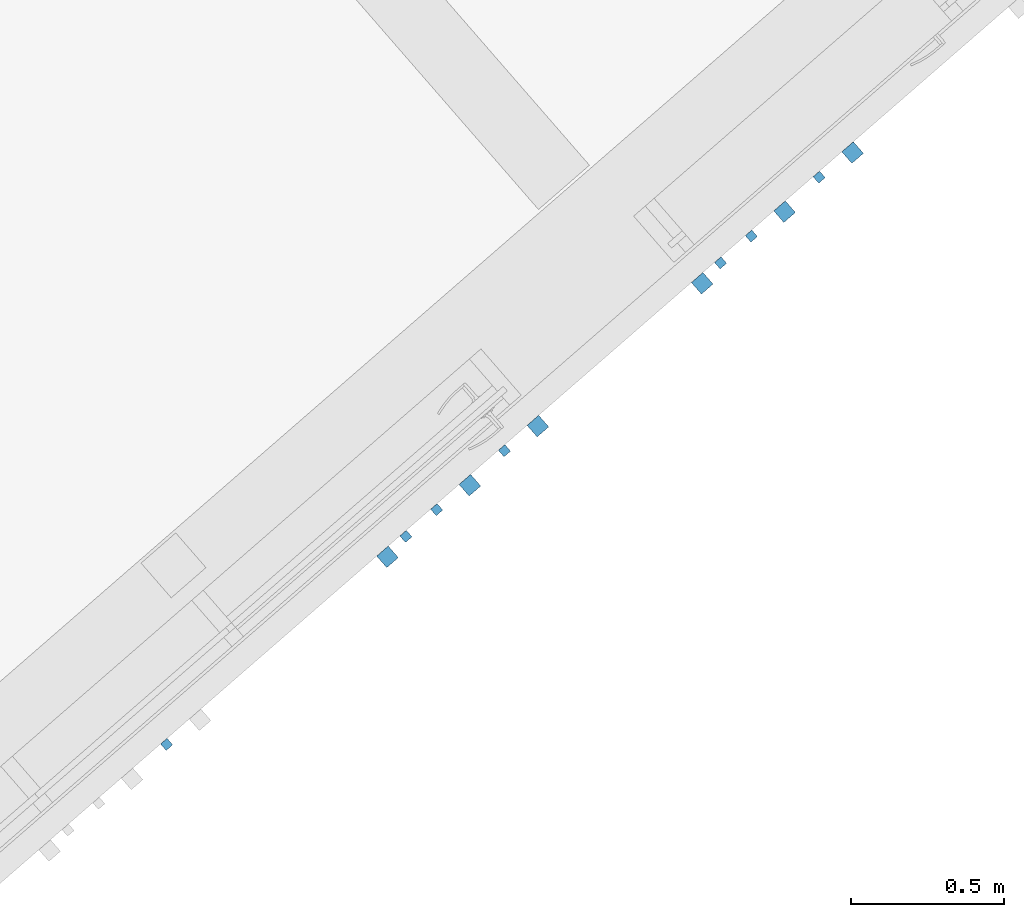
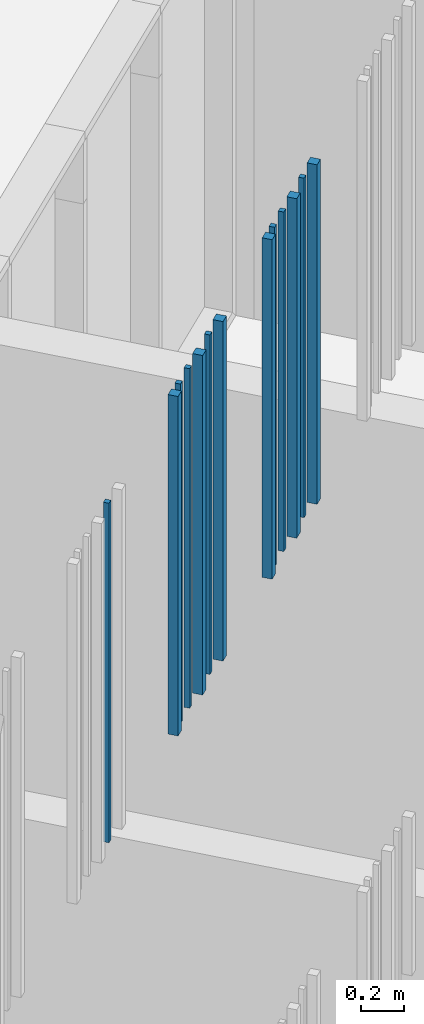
# One storey, part 64 of 124: 13 walls.
"""IFC2X3 building model written with IfcOpenShell, lengths in millimetres."""

import ifcopenshell
import ifcopenshell.guid

model = None  # the IFC model being written
_history = None  # IfcOwnerHistory: only IFC2X3 demands one
_inside = {}  # id of a spatial element -> (the spatial element, [elements in it])
_under = {}  # id of a project, library or spatial element -> (it, [spatial elements below it])
_declared = {}  # id of a project -> (the project, [libraries it declares])
_typed = {}  # id of a type object -> (the type object, [elements of that type])
_made_of = {}  # id of a material, layer set ... -> (it, [elements and type objects made of it])


def new_model(schema):
    """Start an empty IFC model of exactly this schema.

    Asked for "IFC4X3", IfcOpenShell would pick the latest addendum, in which some entities
    have other attributes; the version numbers below select the first issue.
    IFC2X3 requires an IfcOwnerHistory on every rooted entity: one is made here for all.
    """
    global model, _history
    if schema == "IFC4X3":
        model = ifcopenshell.file(schema_version=(4, 3, 0, 0))
    else:
        model = ifcopenshell.file(schema=schema)
    _inside.clear()
    _under.clear()
    _declared.clear()
    _typed.clear()
    _made_of.clear()
    _history = None
    if model.schema == "IFC2X3":
        org = make("IfcOrganization", Name="unknown")
        user = make(
            "IfcPersonAndOrganization",
            ThePerson=make("IfcPerson", FamilyName="unknown"),
            TheOrganization=org,
        )
        app = make(
            "IfcApplication",
            ApplicationDeveloper=org,
            Version="unknown",
            ApplicationFullName="unknown",
            ApplicationIdentifier="unknown",
        )
        _history = make(
            "IfcOwnerHistory",
            OwningUser=user,
            OwningApplication=app,
            ChangeAction="ADDED",
            CreationDate=0,
        )
    return model


def make(cls, **values):
    """One entity of the class cls with the attributes given. An attribute that is None is left unset."""
    return model.create_entity(
        cls, **{name: value for name, value in values.items() if value is not None}
    )


def entity(cls, *values):
    """Any entity or typed value of the class cls, its attributes in the order of the schema. None: left unset."""
    e = model.create_entity(cls)
    for i, value in enumerate(values):
        if value is not None:
            e[i] = value
    return e


def rooted(cls, **values):
    """An entity with a GlobalId (a new one), such as an element, a storey or a relation."""
    return make(cls, GlobalId=ifcopenshell.guid.new(), OwnerHistory=_history, **values)


def si_unit(unit_type, name, prefix=None):
    """IfcSIUnit, for example si_unit("LENGTHUNIT", "METRE", prefix="MILLI")."""
    return make("IfcSIUnit", UnitType=unit_type, Prefix=prefix, Name=name)


def converted_unit(unit_type, name, factor, base, dimensions=None, offset=None):
    """IfcConversionBasedUnit, such as the inch: factor (a typed value) times the base unit."""
    return make(
        "IfcConversionBasedUnit"
        if offset is None
        else "IfcConversionBasedUnitWithOffset",
        ConversionOffset=offset,
        Dimensions=None
        if dimensions is None
        else entity("IfcDimensionalExponents", *dimensions),
        UnitType=unit_type,
        Name=name,
        ConversionFactor=make(
            "IfcMeasureWithUnit", ValueComponent=factor, UnitComponent=base
        ),
    )


def derived_unit(unit_type, elements):
    """IfcDerivedUnit: a product of units, each with its exponent."""
    return make(
        "IfcDerivedUnit",
        Elements=[
            make("IfcDerivedUnitElement", Unit=unit, Exponent=power)
            for unit, power in elements
        ],
        UnitType=unit_type,
    )


def money_unit(currency):
    """IfcMonetaryUnit."""
    return make("IfcMonetaryUnit", Currency=currency)


def assignment(units):
    """IfcUnitAssignment: the units of a project."""
    return None if units is None else make("IfcUnitAssignment", Units=units)


def point(xyz):
    """IfcCartesianPoint."""
    return None if xyz is None else make("IfcCartesianPoint", Coordinates=xyz)


def direction(xyz):
    """IfcDirection."""
    return None if xyz is None else make("IfcDirection", DirectionRatios=xyz)


def frame(location, z_axis=None, x_axis=None):
    """IfcAxis2Placement3D, a coordinate frame: its origin and axes. An axis left out is left unset."""
    return make(
        "IfcAxis2Placement3D",
        Location=point(location),
        Axis=direction(z_axis),
        RefDirection=direction(x_axis),
    )


def origin_with_axes():
    """The frame at (0, 0, 0) with the z axis (0, 0, 1) and the x axis (1, 0, 0) written out."""
    return frame((0.0, 0.0, 0.0), z_axis=(0.0, 0.0, 1.0), x_axis=(1.0, 0.0, 0.0))


def place(relative_to, where):
    """IfcLocalPlacement: puts the frame where relative to a parent placement (None: the world)."""
    return make(
        "IfcLocalPlacement", PlacementRelTo=relative_to, RelativePlacement=where
    )


def context(
    kind, dimensions, precision=None, world=None, true_north=None, identifier=None
):
    """IfcGeometricRepresentationContext, for example the 3D "Model" context."""
    return make(
        "IfcGeometricRepresentationContext",
        ContextIdentifier=identifier,
        ContextType=kind,
        CoordinateSpaceDimension=dimensions,
        Precision=precision,
        WorldCoordinateSystem=world,
        TrueNorth=true_north,
    )


def subcontext(parent, identifier, kind, view, scale=None):
    """IfcGeometricRepresentationSubContext, for example "Body" below "Model"."""
    return make(
        "IfcGeometricRepresentationSubContext",
        ContextIdentifier=identifier,
        ContextType=kind,
        ParentContext=parent,
        TargetScale=scale,
        TargetView=view,
    )


def project(units=None, contexts=None):
    """IfcProject with its units and contexts."""
    return rooted(
        "IfcProject",
        Name="project",
        RepresentationContexts=contexts,
        UnitsInContext=assignment(units),
    )


def spatial(cls, under=None, at=None, **own):
    """A site, building, storey or space (cls), placed at a placement, below another one or the project."""
    s = rooted(cls, ObjectPlacement=at, **own)
    if under is not None:
        _under.setdefault(under.id(), (under, []))[1].append(s)
    return s


def faces_of(points, faces, orient=None, outer=None):
    """IfcFace entities. A face is a list of loops; a loop is a list of indices into points, from 0.

    orient and outer hold one flag for each loop. By default every Orientation is true, the
    first loop of a face is its IfcFaceOuterBound and the others are IfcFaceBound.
    """
    made = []
    for i, loops in enumerate(faces):
        bounds = []
        for j, loop in enumerate(loops):
            is_outer = j == 0 if outer is None else outer[i][j]
            bounds.append(
                make(
                    "IfcFaceOuterBound" if is_outer else "IfcFaceBound",
                    Bound=make("IfcPolyLoop", Polygon=[points[k] for k in loop]),
                    Orientation=True if orient is None else orient[i][j],
                )
            )
        made.append(make("IfcFace", Bounds=bounds))
    return made


def faceted_brep(points, faces, orient=None, outer=None, voids=None):
    """IfcFacetedBrep: a solid bounded by flat faces; with voids (closed shells), ...WithVoids."""
    shared = [point(p) for p in points]
    hull = make("IfcClosedShell", CfsFaces=faces_of(shared, faces, orient, outer))
    if voids is None:
        return make("IfcFacetedBrep", Outer=hull)
    return make(
        "IfcFacetedBrepWithVoids",
        Outer=hull,
        Voids=[
            make(cls, CfsFaces=faces_of(shared, fs, o, b)) for cls, fs, o, b in voids
        ],
    )


def shape(context_of_items, identifier, shape_type, items):
    """IfcShapeRepresentation: the items that make up one representation, for example the "Body"."""
    return make(
        "IfcShapeRepresentation",
        ContextOfItems=context_of_items,
        RepresentationIdentifier=identifier,
        RepresentationType=shape_type,
        Items=items,
    )


def material(Name=None, Category=None):
    """IfcMaterial."""
    return make("IfcMaterial", Name=Name, Category=Category)


def made_of(thing, what):
    """Note that an element or type object is made of a material, layer set ...; save() writes the relation."""
    if what is not None:
        _made_of.setdefault(what.id(), (what, []))[1].append(thing)
    return thing


def type_object(cls, material=None, **own):
    """A type object (cls), such as IfcWallType, which elements share."""
    return made_of(rooted(cls, **own), material)


def element(
    cls,
    number,
    at=None,
    inside=None,
    cuts=None,
    type_object=None,
    material=None,
    context=None,
    identifier="Body",
    shape_type=None,
    held_by="IfcProductDefinitionShape",
    body=None,
    shapes=None,
    **own,
):
    """One element of the class cls, such as IfcWall. Its Tag is "e" and its number.

    at: its placement. inside: the storey or other place that contains it. cuts: it is an
    opening in that element (IfcRelVoidsElement). A single representation is given by context,
    identifier, shape_type and body (its items); several are given by shapes. held_by: the class
    of the entity that holds the representations. save() writes the other relations.
    """
    e = rooted(cls, Tag="e%d" % number, ObjectPlacement=at, **own)
    if body is not None:
        shapes = [shape(context, identifier, shape_type, body)]
    if shapes is not None:
        e.Representation = make(held_by, Representations=shapes)
    if inside is not None:
        _inside.setdefault(inside.id(), (inside, []))[1].append(e)
    if cuts is not None:
        rooted(
            "IfcRelVoidsElement", RelatingBuildingElement=cuts, RelatedOpeningElement=e
        )
    if type_object is not None:
        _typed.setdefault(type_object.id(), (type_object, []))[1].append(e)
    return made_of(e, material)


def aggregate(whole, parts):
    """IfcRelAggregates: a whole, such as a stair, and the parts it consists of."""
    return rooted("IfcRelAggregates", RelatingObject=whole, RelatedObjects=parts)


def save(model, path):
    """Write the relations noted so far, then the file.

    IfcRelAggregates (storeys below a building ...), IfcRelContainedInSpatialStructure (elements
    in a storey), IfcRelDefinesByType, IfcRelAssociatesMaterial and IfcRelDeclares: one each for
    every whole, place, type object, material and project.
    """
    for whole, parts in _under.values():
        aggregate(whole, parts)
    for where, things in _inside.values():
        rooted(
            "IfcRelContainedInSpatialStructure",
            RelatedElements=things,
            RelatingStructure=where,
        )
    for kind, things in _typed.values():
        rooted("IfcRelDefinesByType", RelatedObjects=things, RelatingType=kind)
    for what, things in _made_of.values():
        rooted("IfcRelAssociatesMaterial", RelatedObjects=things, RelatingMaterial=what)
    for by, libraries in _declared.values():
        rooted("IfcRelDeclares", RelatingContext=by, RelatedDefinitions=libraries)
    model.write(path)


model = new_model("IFC2X3")

# Units and contexts
model_context = context("Model", 3, precision=1e-05, world=origin_with_axes(), true_north=direction((0.0, 1.0)))
body_context = subcontext(model_context, "Body", "Model", "MODEL_VIEW")
ifc_project = project(units=[si_unit("LENGTHUNIT", "METRE", prefix="MILLI"), si_unit("AREAUNIT", "SQUARE_METRE"), si_unit("VOLUMEUNIT", "CUBIC_METRE"), converted_unit("PLANEANGLEUNIT", "DEGREE", entity("IfcPlaneAngleMeasure", 0.0174532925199), si_unit("PLANEANGLEUNIT", "RADIAN"), dimensions=[0, 0, 0, 0, 0, 0, 0]), si_unit("SOLIDANGLEUNIT", "STERADIAN"), money_unit("EUR"), converted_unit("TIMEUNIT", "Year", entity("IfcTimeMeasure", 31556926.0), si_unit("TIMEUNIT", "SECOND"), dimensions=[0, 0, 1, 0, 0, 0, 0]), si_unit("MASSUNIT", "GRAM", prefix="KILO"), si_unit("THERMODYNAMICTEMPERATUREUNIT", "DEGREE_CELSIUS"), si_unit("LUMINOUSINTENSITYUNIT", "LUMEN"), si_unit("ENERGYUNIT", "JOULE", prefix="MEGA"), derived_unit("THERMALCONDUCTANCEUNIT", [(si_unit("POWERUNIT", "WATT"), 1), (si_unit("LENGTHUNIT", "METRE"), -1), (si_unit("THERMODYNAMICTEMPERATUREUNIT", "KELVIN"), -1)]), derived_unit("SPECIFICHEATCAPACITYUNIT", [(si_unit("ENERGYUNIT", "JOULE"), 1), (si_unit("MASSUNIT", "GRAM", prefix="KILO"), -1), (si_unit("THERMODYNAMICTEMPERATUREUNIT", "KELVIN"), -1)]), derived_unit("MASSDENSITYUNIT", [(si_unit("MASSUNIT", "GRAM", prefix="KILO"), 1), (si_unit("VOLUMEUNIT", "CUBIC_METRE"), -1)])], contexts=[model_context])

# Site, building, storey
site_placement = place(None, origin_with_axes())
site = spatial("IfcSite", under=ifc_project, at=site_placement, Name="Site", CompositionType="ELEMENT")
building_placement = place(site_placement, origin_with_axes())
building = spatial("IfcBuilding", under=site, at=building_placement, Name="Building", CompositionType="ELEMENT")
storey_placement = place(building_placement, frame((0.0, 0.0, -1615.0), z_axis=(0.0, 0.0, 1.0), x_axis=(1.0, 0.0, 0.0)))
storey = spatial("IfcBuildingStorey", under=building, at=storey_placement, Name="0  korrus", CompositionType="ELEMENT", Elevation=-1615.0)

# Walls
ifc_material = material(Name="Site specified")
wall_type = type_object("IfcWallType", Name="Puitfassaadi ribistik", PredefinedType="NOTDEFINED")
wall_1_placement = place(storey_placement, frame((156434.117052, 80631.2950921, 9530.0), z_axis=(0.0, 0.0, 1.0), x_axis=(-0.754709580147, -0.656059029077, 0.0)))
element("IfcWall", 1, at=wall_1_placement, inside=storey, type_object=wall_type, material=ifc_material, Name="Site specified", context=body_context, shape_type="Brep", body=[
    faceted_brep([(14.0, 14.0, 1950.0), (14.0, 14.0, 0.0), (-14.0, 14.0, 0.0), (-14.0, 14.0, 1950.0), (14.0, -14.0, 1950.0), (14.0, -14.0, 0.0), (-14.0, -14.0, 0.0), (-14.0, -14.0, 1950.0)], [[[0, 1, 2, 3]], [[4, 5, 1, 0]], [[2, 1, 5, 6]], [[3, 2, 6, 7]], [[4, 0, 3, 7]], [[7, 6, 5, 4]]]),
])
wall_2_placement = place(storey_placement, frame((157645.097363, 81669.4090742, 9530.0), z_axis=(0.0, 0.0, 1.0), x_axis=(-0.754709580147, -0.656059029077, 0.0)))
element("IfcWall", 2, at=wall_2_placement, inside=storey, type_object=wall_type, material=ifc_material, Name="Site specified", context=body_context, shape_type="Brep", body=[
    faceted_brep([(25.0, 25.0, 1950.0), (25.0, 25.0, 0.0), (-25.0, 25.0, 0.0), (-25.0, 25.0, 1950.0), (25.0, -25.0, 1950.0), (25.0, -25.0, 0.0), (-25.0, -25.0, 0.0), (-25.0, -25.0, 1950.0)], [[[0, 1, 2, 3]], [[4, 5, 1, 0]], [[2, 1, 5, 6]], [[3, 2, 6, 7]], [[4, 0, 3, 7]], [[7, 6, 5, 4]]]),
])
for number, where, z_axis, x_axis, name in (
    (3, (157535.993041, 81589.1412768, 9530.0), (0.0, 0.0, 1.0), (-0.754709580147, -0.656059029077, 0.0), "Site specified"),
    (4, (157214.486783, 81309.6601499, 9530.0), (0.0, 0.0, 1.0), (-0.754709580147, -0.656059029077, 0.0), "Site specified"),
    (5, (157314.863156, 81396.9160002, 9530.0), (0.0, 0.0, 1.0), (-0.754709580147, -0.656059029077, 0.0), "Site specified"),
):
    element("IfcWall", number, at=place(storey_placement, frame(where, z_axis=z_axis, x_axis=x_axis)), inside=storey, type_object=wall_type, material=ifc_material, Name=name, context=body_context, shape_type="Brep", body=[
        faceted_brep([(14.0, 14.0, 1950.0), (14.0, 14.0, 0.0), (-14.0, 14.0, 0.0), (-14.0, 14.0, 1950.0), (14.0, -14.0, 1950.0), (14.0, -14.0, 0.0), (-14.0, -14.0, 0.0), (-14.0, -14.0, 1950.0)], [[[0, 1, 2, 3]], [[4, 5, 1, 0]], [[2, 1, 5, 6]], [[3, 2, 6, 7]], [[4, 0, 3, 7]], [[7, 6, 5, 4]]]),
    ])
for number, where, z_axis, x_axis, name in (
    (6, (157154.531886, 81242.967011, 9530.0), (0.0, 0.0, 1.0), (-0.754709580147, -0.656059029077, 0.0), "Site specified"),
    (7, (157423.212749, 81476.5277211, 9530.0), (0.0, 0.0, 1.0), (-0.754709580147, -0.656059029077, 0.0), "Site specified"),
):
    element("IfcWall", number, at=place(storey_placement, frame(where, z_axis=z_axis, x_axis=x_axis)), inside=storey, type_object=wall_type, material=ifc_material, Name=name, context=body_context, shape_type="Brep", body=[
        faceted_brep([(25.0, 25.0, 1950.0), (25.0, 25.0, 0.0), (-25.0, 25.0, 0.0), (-25.0, 25.0, 1950.0), (25.0, -25.0, 1950.0), (25.0, -25.0, 0.0), (-25.0, -25.0, 0.0), (-25.0, -25.0, 1950.0)], [[[0, 1, 2, 3]], [[4, 5, 1, 0]], [[2, 1, 5, 6]], [[3, 2, 6, 7]], [[4, 0, 3, 7]], [[7, 6, 5, 4]]]),
    ])
wall_3_placement = place(storey_placement, frame((158341.268185, 82289.1562797, 9530.0), z_axis=(0.0, 0.0, 1.0), x_axis=(-0.754709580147, -0.656059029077, 0.0)))
element("IfcWall", 8, at=wall_3_placement, inside=storey, type_object=wall_type, material=ifc_material, Name="Site specified", context=body_context, shape_type="Brep", body=[
    faceted_brep([(14.0, 14.0, 1950.0), (14.0, 14.0, 0.0), (-14.0, 14.0, 0.0), (-14.0, 14.0, 1950.0), (14.0, -14.0, 1950.0), (14.0, -14.0, 0.0), (-14.0, -14.0, 0.0), (-14.0, -14.0, 1950.0)], [[[0, 1, 2, 3]], [[4, 5, 1, 0]], [[2, 1, 5, 6]], [[3, 2, 6, 7]], [[4, 0, 3, 7]], [[7, 6, 5, 4]]]),
])
wall_4_placement = place(storey_placement, frame((158671.502392, 82561.6493537, 9530.0), z_axis=(0.0, 0.0, 1.0), x_axis=(-0.754709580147, -0.656059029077, 0.0)))
element("IfcWall", 9, at=wall_4_placement, inside=storey, type_object=wall_type, material=ifc_material, Name="Site specified", context=body_context, shape_type="Brep", body=[
    faceted_brep([(25.0, 25.0, 1950.0), (25.0, 25.0, 0.0), (-25.0, 25.0, 0.0), (-25.0, 25.0, 1950.0), (25.0, -25.0, 1950.0), (25.0, -25.0, 0.0), (-25.0, -25.0, 0.0), (-25.0, -25.0, 1950.0)], [[[0, 1, 2, 3]], [[4, 5, 1, 0]], [[2, 1, 5, 6]], [[3, 2, 6, 7]], [[4, 0, 3, 7]], [[7, 6, 5, 4]]]),
])
for number, where, z_axis, x_axis, name in (
    (10, (158562.39807, 82481.3815563, 9530.0), (0.0, 0.0, 1.0), (-0.754709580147, -0.656059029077, 0.0), "Site specified"),
    (11, (158240.891812, 82201.9004294, 9530.0), (0.0, 0.0, 1.0), (-0.754709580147, -0.656059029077, 0.0), "Site specified"),
):
    element("IfcWall", number, at=place(storey_placement, frame(where, z_axis=z_axis, x_axis=x_axis)), inside=storey, type_object=wall_type, material=ifc_material, Name=name, context=body_context, shape_type="Brep", body=[
        faceted_brep([(14.0, 14.0, 1950.0), (14.0, 14.0, 0.0), (-14.0, 14.0, 0.0), (-14.0, 14.0, 1950.0), (14.0, -14.0, 1950.0), (14.0, -14.0, 0.0), (-14.0, -14.0, 0.0), (-14.0, -14.0, 1950.0)], [[[0, 1, 2, 3]], [[4, 5, 1, 0]], [[2, 1, 5, 6]], [[3, 2, 6, 7]], [[4, 0, 3, 7]], [[7, 6, 5, 4]]]),
    ])
for number, where, z_axis, x_axis, name in (
    (12, (158180.936915, 82135.2072905, 9530.0), (0.0, 0.0, 1.0), (-0.754709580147, -0.656059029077, 0.0), "Site specified"),
    (13, (158449.617778, 82368.7680006, 9530.0), (0.0, 0.0, 1.0), (-0.754709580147, -0.656059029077, 0.0), "Site specified"),
):
    element("IfcWall", number, at=place(storey_placement, frame(where, z_axis=z_axis, x_axis=x_axis)), inside=storey, type_object=wall_type, material=ifc_material, Name=name, context=body_context, shape_type="Brep", body=[
        faceted_brep([(25.0, 25.0, 1950.0), (25.0, 25.0, 0.0), (-25.0, 25.0, 0.0), (-25.0, 25.0, 1950.0), (25.0, -25.0, 1950.0), (25.0, -25.0, 0.0), (-25.0, -25.0, 0.0), (-25.0, -25.0, 1950.0)], [[[0, 1, 2, 3]], [[4, 5, 1, 0]], [[2, 1, 5, 6]], [[3, 2, 6, 7]], [[4, 0, 3, 7]], [[7, 6, 5, 4]]]),
    ])

save(model, "model.ifc")
